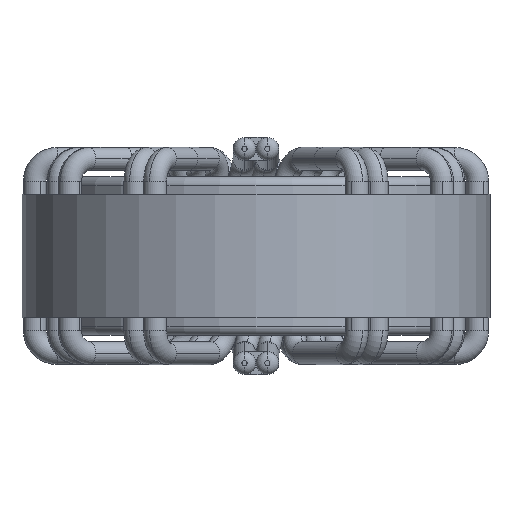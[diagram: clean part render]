
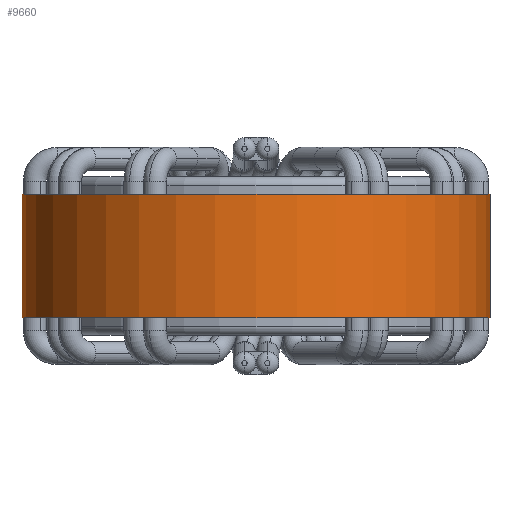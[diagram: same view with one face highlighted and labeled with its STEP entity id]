
A CAD part, front view. The second image highlights one B-rep face of the part: STEP entity #9660.
In plain terms, the highlighted cylindrical face has radius 26.49 mm (diameter 52.98 mm), a partial arc.
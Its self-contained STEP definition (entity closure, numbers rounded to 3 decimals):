
#534 = DIRECTION ( 'NONE',  ( 1., 0., 0. ) ) ;
#1171 = VERTEX_POINT ( 'NONE', #11781 ) ;
#2881 = CARTESIAN_POINT ( 'NONE',  ( 26.49, 0., 7. ) ) ;
#3536 = CARTESIAN_POINT ( 'NONE',  ( 26.49, 0., -7. ) ) ;
#5313 = LINE ( 'NONE', #35630, #25941 ) ;
#8617 = ORIENTED_EDGE ( 'NONE', *, *, #20312, .T. ) ;
#9660 = ADVANCED_FACE ( 'NONE', ( #39176 ), #31444, .T. ) ;
#9760 = DIRECTION ( 'NONE',  ( 0., 0., 1. ) ) ;
#11759 = ORIENTED_EDGE ( 'NONE', *, *, #13204, .T. ) ;
#11781 = CARTESIAN_POINT ( 'NONE',  ( -26.49, 0., -7. ) ) ;
#11886 = DIRECTION ( 'NONE',  ( 0., 0., -1. ) ) ;
#12035 = VECTOR ( 'NONE', #15771, 1000. ) ;
#12256 = EDGE_CURVE ( 'NONE', #37839, #30541, #24526, .T. ) ;
#13204 = EDGE_CURVE ( 'NONE', #37839, #1171, #30349, .T. ) ;
#14940 = EDGE_LOOP ( 'NONE', ( #22400, #20383, #11759, #8617 ) ) ;
#15551 = DIRECTION ( 'NONE',  ( 0., 0., -1. ) ) ;
#15771 = DIRECTION ( 'NONE',  ( 0., 0., -1. ) ) ;
#15828 = DIRECTION ( 'NONE',  ( -1., 0., 0. ) ) ;
#17195 = AXIS2_PLACEMENT_3D ( 'NONE', #27975, #15551, #15828 ) ;
#18605 = CARTESIAN_POINT ( 'NONE',  ( -26.49, 0., 7. ) ) ;
#20312 = EDGE_CURVE ( 'NONE', #1171, #27715, #23125, .T. ) ;
#20383 = ORIENTED_EDGE ( 'NONE', *, *, #12256, .F. ) ;
#22400 = ORIENTED_EDGE ( 'NONE', *, *, #36838, .F. ) ;
#23125 = CIRCLE ( 'NONE', #30236, 26.49 ) ;
#23288 = AXIS2_PLACEMENT_3D ( 'NONE', #28436, #34590, #534 ) ;
#24526 = CIRCLE ( 'NONE', #23288, 26.49 ) ;
#25941 = VECTOR ( 'NONE', #11886, 1000. ) ;
#27715 = VERTEX_POINT ( 'NONE', #3536 ) ;
#27975 = CARTESIAN_POINT ( 'NONE',  ( 0., 0., 7. ) ) ;
#28436 = CARTESIAN_POINT ( 'NONE',  ( 0., 0., 7. ) ) ;
#29337 = CARTESIAN_POINT ( 'NONE',  ( -26.49, 0., 7. ) ) ;
#30236 = AXIS2_PLACEMENT_3D ( 'NONE', #34491, #9760, #34636 ) ;
#30349 = LINE ( 'NONE', #18605, #12035 ) ;
#30541 = VERTEX_POINT ( 'NONE', #2881 ) ;
#31444 = CYLINDRICAL_SURFACE ( 'NONE', #17195, 26.49 ) ;
#34491 = CARTESIAN_POINT ( 'NONE',  ( 0., 0., -7. ) ) ;
#34590 = DIRECTION ( 'NONE',  ( 0., 0., 1. ) ) ;
#34636 = DIRECTION ( 'NONE',  ( 1., 0., 0. ) ) ;
#35630 = CARTESIAN_POINT ( 'NONE',  ( 26.49, 0., 7. ) ) ;
#36838 = EDGE_CURVE ( 'NONE', #30541, #27715, #5313, .T. ) ;
#37839 = VERTEX_POINT ( 'NONE', #29337 ) ;
#39176 = FACE_OUTER_BOUND ( 'NONE', #14940, .T. ) ;
